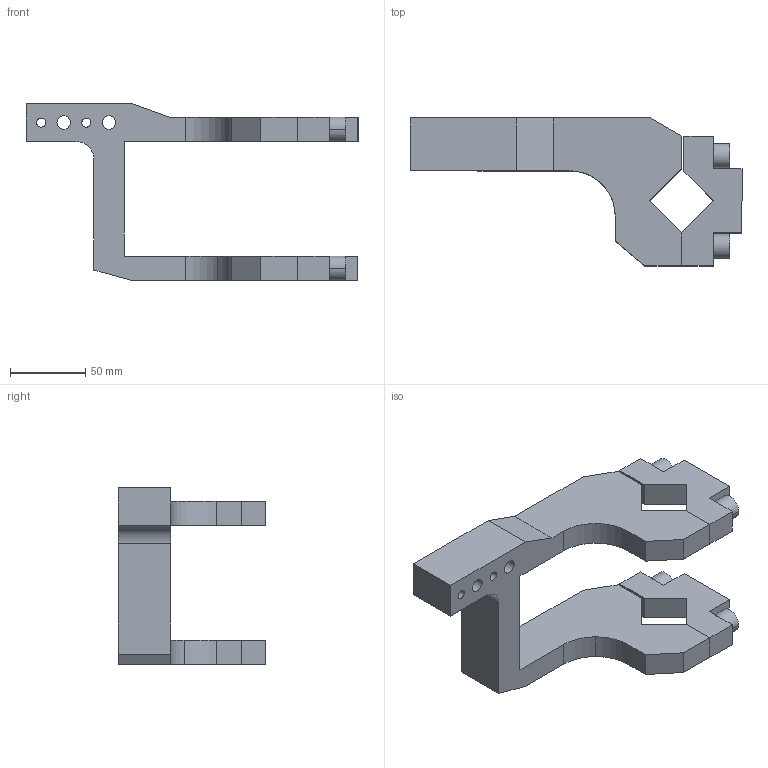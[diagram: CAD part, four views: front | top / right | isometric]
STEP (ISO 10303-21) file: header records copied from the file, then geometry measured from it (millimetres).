
FILE_DESCRIPTION((''),'2;1');
FILE_NAME('S:\Matthew\Step Files\XM Clamp Arms\XJ80-CAL-01.stp','2006-06-28T08:21:03',('Matthew'),(''),'Autodesk Inventor 8','Autodesk Inventor 8','');
FILE_SCHEMA(('AUTOMOTIVE_DESIGN { 1 0 10303 214 1 1 1 1 }'));
Length unit declared in the file: millimetre
Products named in the file (1): XJ80-CAL-01
Bounding box: 220 x 98 x 117 mm (x, y, z)
Volume: 382145 mm3; surface area: 82158.2 mm2
Topology: 1 solids, 3 shells, 110 faces, 282 edges, 176 vertices
Faces by surface type: bspline 49, plane 37, cylinder 16, cone 8
Entity records: 3568 total; most frequent: CARTESIAN_POINT 1002, ORIENTED_EDGE 548, DIRECTION 480, EDGE_CURVE 274, VECTOR 192, LINE 192, VERTEX_POINT 176, AXIS2_PLACEMENT_3D 144
